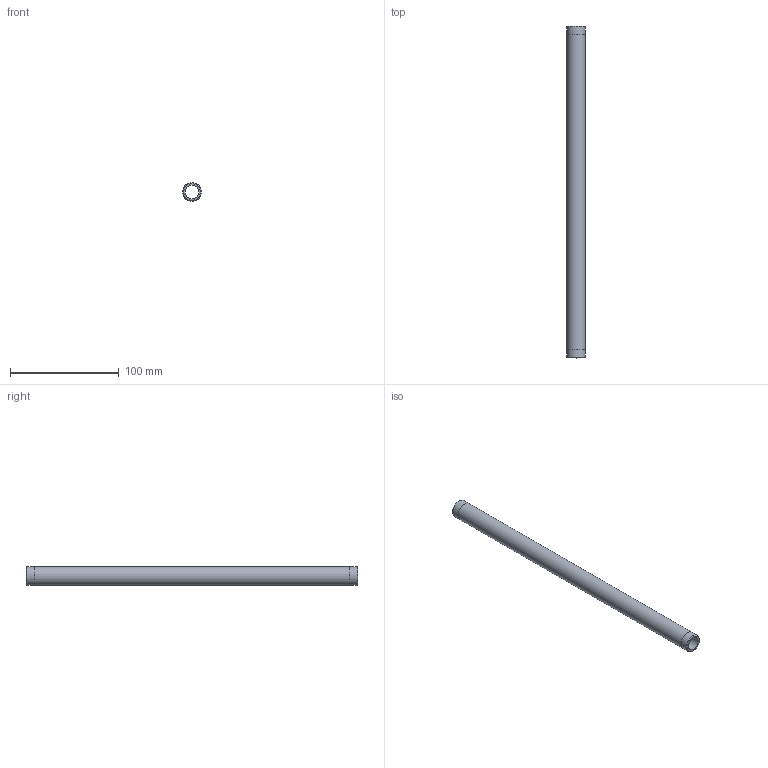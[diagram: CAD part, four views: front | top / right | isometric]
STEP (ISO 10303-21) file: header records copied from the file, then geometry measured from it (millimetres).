
FILE_DESCRIPTION(/* description */ (''),/* implementation_level */ '2;1');
FILE_NAME(/* name */ 'C:/Users/drich/Desktop/BPN38-12 v1.step',/* time_stamp */ '2020-01-03T15:23:07-06:00',/* author */ (''),/* organization */ (''),/* preprocessor_version */ 'ST-DEVELOPER v18',/* originating_system */ 'Autodesk Translation Framework v8.12.0.6',/* authorisation */ '');
FILE_SCHEMA (('AUTOMOTIVE_DESIGN { 1 0 10303 214 3 1 1 }'));
Length unit declared in the file: inch
Products named in the file (1): BPN38-12
Bounding box: 17.14 x 304.8 x 17.14 mm (x, y, z)
Volume: 32780.1 mm3; surface area: 28571.6 mm2
Topology: 1 solids, 1 shells, 10 faces, 24 edges, 18 vertices
Faces by surface type: cylinder 4, plane 4, cone 2
Full cylindrical faces by diameter (mm): 12.522 x1, 17.094 x2, 17.145 x1
Entity records: 360 total; most frequent: DIRECTION 64, CARTESIAN_POINT 53, ORIENTED_EDGE 48, AXIS2_PLACEMENT_3D 29, EDGE_CURVE 24, CIRCLE 18, VERTEX_POINT 18, EDGE_LOOP 14
